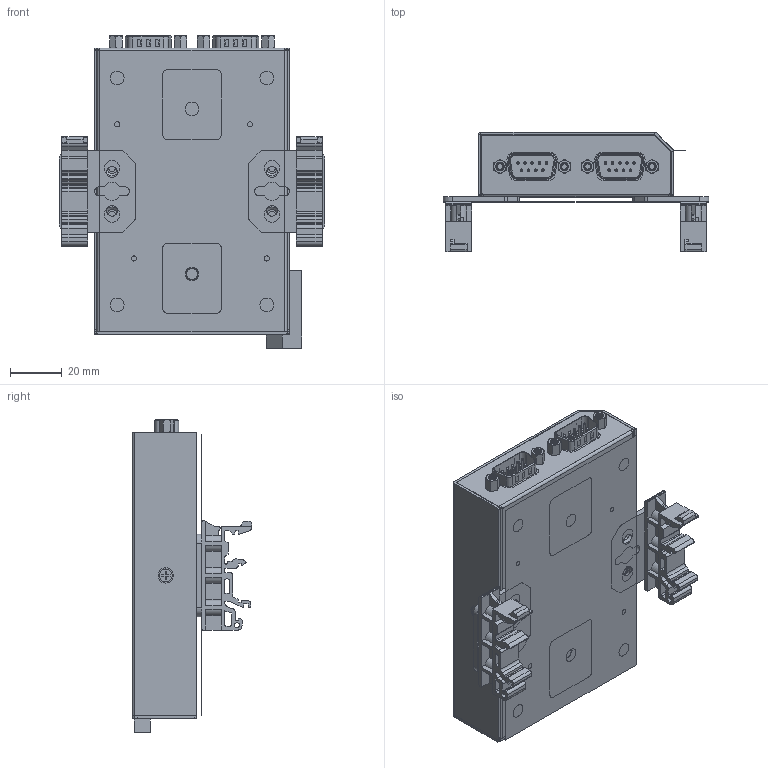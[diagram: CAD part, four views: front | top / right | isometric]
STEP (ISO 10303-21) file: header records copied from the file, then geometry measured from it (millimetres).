
FILE_DESCRIPTION((''),'2;1');
FILE_NAME('00_UPORT_1250A_ASSY_ASM','2023-11-15T10:56:34',('BensonYC_Lee'),('PTC'),'CREO PARAMETRIC BY PTC INC, 2020414','CREO PARAMETRIC BY PTC INC, 2020414','');
FILE_SCHEMA(('AUTOMOTIVE_DESIGN { 1 0 10303 214 1 1 1 1 }'));
Products named in the file (44): UPORT_1250A_PCB_AF0; NP_1106520000113_LED_D_G_R_SMD_AF0; NP_1106521000112_LEDA_1G_1Y_SMD_AF0; NP_1106521000112_LEDA_1G_1Y_SMD_AF1; 1109020000110_SW_90D; 1126400091111_DB9_M; UPORT_OXOC_USB_B_AF0; 1109040040110_SW-DIP4P-NHDS_AF0; 1109040040110_SW-DIP4P-NHDS_AF1; UPORT_1250A_PCBA_AF0_ASM; UPORT_1200_G2_TOP_COVER_AF1; UPORT_A_NUT_M3; UPORT_1200_G2_TOP_COVER_AF0_ASM; UPORT_1200_G2_BOT_COVER_AF1; NPORT_6X50E_A_NUT_M3_AF0; NPORT_6X50E_A_NUT_M3_AF1; NPORT_6X50E_A_NUT_M3_AF2; NPORT_6X50E_A_NUT_M3_AF3; NPORT_6000E_BSO_M3-4_2-L6_AF0; NPORT_6000E_BSO_M3-4_2-L6_AF1; NPORT_6000E_BSO_M3-4_2-L6_AF2; NPORT_6000E_PIN_AF0; NPORT_6000E_PIN_AF1; NPORT_6000E_M3_NSSO_1_AF0; NPORT_6000E_M3_NSSO_1_AF1; NPORT_6000E_M3_NSSO_1_AF2; NPORT_6000E_M3_NSSO_1_AF3; NPORT_6X50_YSO_4_2_M3; NPORT_6X50_YSO_4_2_M3_AF0; NPORT_6X50_YSO_4_2_M3_AF1; NPORT_6X50_YSO_4_2_M3_AF2; UPORT_1200_G2_BOT_COVER_AF0_ASM; NPORT_6150E_LIGHT_PIPE_AF0; UPORT_1200_DOOR; TEMP_1402221010030_SCREW_AF0; TEMP_1402221010030_SCREW_AF1; TEMP_1402221010030_SCREW_AF2; TEMP_1402221010030_SCREW_AF3; UPORT_1403010401211-SPACER_DB; UPORT_1200_SCREW_AF0_ASM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
Assembly tree (49 placements, depth 3):
  00_UPORT_1250A_ASSY_ASM
    UPORT_1250A_PCBA_AF0_ASM
      UPORT_1250A_PCB_AF0
      NP_1106520000113_LED_D_G_R_SMD_AF0
      NP_1106521000112_LEDA_1G_1Y_SMD_AF0
      NP_1106521000112_LEDA_1G_1Y_SMD_AF1
      1109020000110_SW_90D
      1126400091111_DB9_M  x2
      UPORT_OXOC_USB_B_AF0
      1109040040110_SW-DIP4P-NHDS_AF0
      1109040040110_SW-DIP4P-NHDS_AF1
    UPORT_1200_G2_TOP_COVER_AF0_ASM
      UPORT_1200_G2_TOP_COVER_AF1
      UPORT_A_NUT_M3
    UPORT_1200_G2_BOT_COVER_AF0_ASM
      UPORT_1200_G2_BOT_COVER_AF1
      NPORT_6X50E_A_NUT_M3_AF0
      NPORT_6X50E_A_NUT_M3_AF1
      NPORT_6X50E_A_NUT_M3_AF2
      NPORT_6X50E_A_NUT_M3_AF3
      NPORT_6000E_BSO_M3-4_2-L6_AF0
      NPORT_6000E_BSO_M3-4_2-L6_AF1
      NPORT_6000E_BSO_M3-4_2-L6_AF2
      NPORT_6000E_PIN_AF0
      NPORT_6000E_PIN_AF1
      NPORT_6000E_M3_NSSO_1_AF0
      NPORT_6000E_M3_NSSO_1_AF1
      NPORT_6000E_M3_NSSO_1_AF2
      NPORT_6000E_M3_NSSO_1_AF3
      NPORT_6X50_YSO_4_2_M3
      NPORT_6X50_YSO_4_2_M3_AF0
      NPORT_6X50_YSO_4_2_M3_AF1
      NPORT_6X50_YSO_4_2_M3_AF2
    NPORT_6150E_LIGHT_PIPE_AF0
    UPORT_1200_DOOR
    UPORT_1200_SCREW_AF0_ASM
      TEMP_1402221010030_SCREW_AF0
      TEMP_1402221010030_SCREW_AF1
      TEMP_1402221010030_SCREW_AF2
      TEMP_1402221010030_SCREW_AF3
      UPORT_1403010401211-SPACER_DB  x4
    01_NPORT_6250E_ACCESSORY_ASM
      01_01_NPORT6G2_WALLMOUNT  x2
      UPORT_1200_DK_35  x2
Bounding box: 103 x 46.34 x 121.05 mm (x, y, z)
Volume: 42179.5 mm3; surface area: 156787.3 mm2
Topology: 40 solids, 58 shells, 5423 faces, 16961 edges, 11602 vertices
Faces by surface type: plane 3490, cylinder 1428, bspline 175, torus 132, cone 129, sphere 60, extrusion 9
Entity records: 210149 total; most frequent: CARTESIAN_POINT 43968, DIRECTION 27343, ORIENTED_EDGE 25382, EDGE_CURVE 12733, VECTOR 11662, LINE 11653, VERTEX_POINT 8205, AXIS2_PLACEMENT_3D 7777
